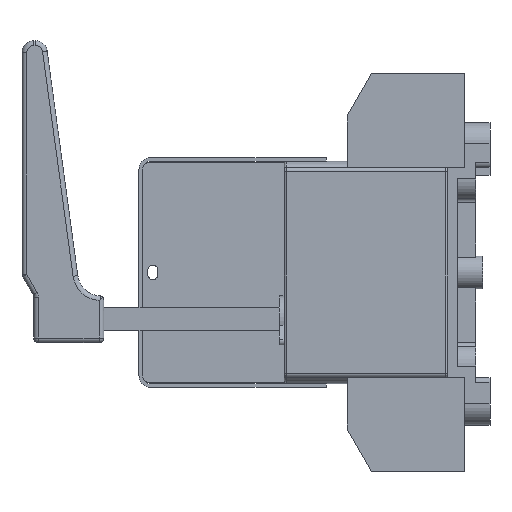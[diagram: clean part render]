
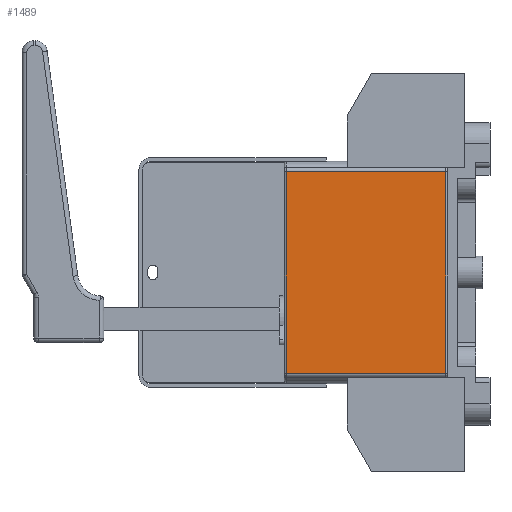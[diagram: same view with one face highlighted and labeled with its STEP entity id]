
A CAD part, left-side view. The second image highlights one B-rep face of the part: STEP entity #1489.
In plain terms, the highlighted planar face has unit normal (-1, 0, 0).
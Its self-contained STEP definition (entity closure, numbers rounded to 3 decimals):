
#1489=ADVANCED_FACE('',(#3214),#2532,.F.);
#2532=PLANE('',#21343);
#3214=FACE_OUTER_BOUND('',#4188,.T.);
#4188=EDGE_LOOP('',(#6743,#6744,#6745,#6746));
#6743=ORIENTED_EDGE('',*,*,#14356,.F.);
#6744=ORIENTED_EDGE('',*,*,#14357,.T.);
#6745=ORIENTED_EDGE('',*,*,#14353,.T.);
#6746=ORIENTED_EDGE('',*,*,#14358,.T.);
#12358=VERTEX_POINT('',#29989);
#12359=VERTEX_POINT('',#29990);
#12360=VERTEX_POINT('',#29995);
#12361=VERTEX_POINT('',#29996);
#14353=EDGE_CURVE('',#12358,#12359,#17123,.T.);
#14356=EDGE_CURVE('',#12360,#12361,#17124,.T.);
#14357=EDGE_CURVE('',#12360,#12358,#17125,.T.);
#14358=EDGE_CURVE('',#12359,#12361,#17126,.T.);
#17123=LINE('',#29988,#19195);
#17124=LINE('',#29994,#19196);
#17125=LINE('',#29997,#19197);
#17126=LINE('',#29998,#19198);
#19195=VECTOR('',#23690,1.);
#19196=VECTOR('',#23697,1.);
#19197=VECTOR('',#23698,1.);
#19198=VECTOR('',#23699,1.);
#21343=AXIS2_PLACEMENT_3D('',#29999,#23700,#23701);
#23690=DIRECTION('',(0.,-1.,0.));
#23697=DIRECTION('',(0.,-1.,0.));
#23698=DIRECTION('',(0.,0.,-1.));
#23699=DIRECTION('',(0.,0.,1.));
#23700=DIRECTION('',(1.,0.,0.));
#23701=DIRECTION('',(0.,0.,-1.));
#29988=CARTESIAN_POINT('',(-41.,35.,-43.));
#29989=CARTESIAN_POINT('',(-41.,69.,-43.));
#29990=CARTESIAN_POINT('',(-41.,1.,-43.));
#29994=CARTESIAN_POINT('',(-41.,35.,43.));
#29995=CARTESIAN_POINT('',(-41.,69.,43.));
#29996=CARTESIAN_POINT('',(-41.,1.,43.));
#29997=CARTESIAN_POINT('',(-41.,69.,-43.));
#29998=CARTESIAN_POINT('',(-41.,1.,-43.));
#29999=CARTESIAN_POINT('',(-41.,35.,-43.));
